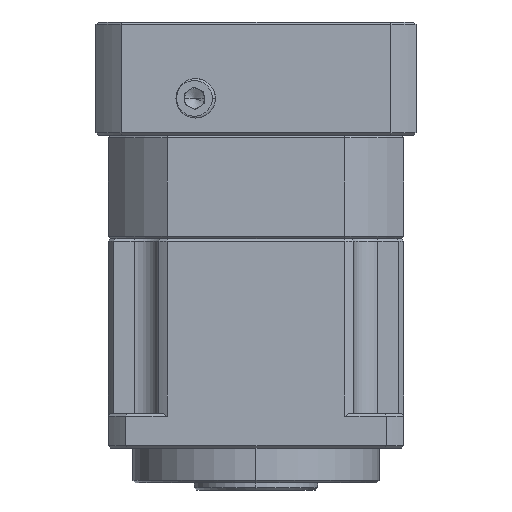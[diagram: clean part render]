
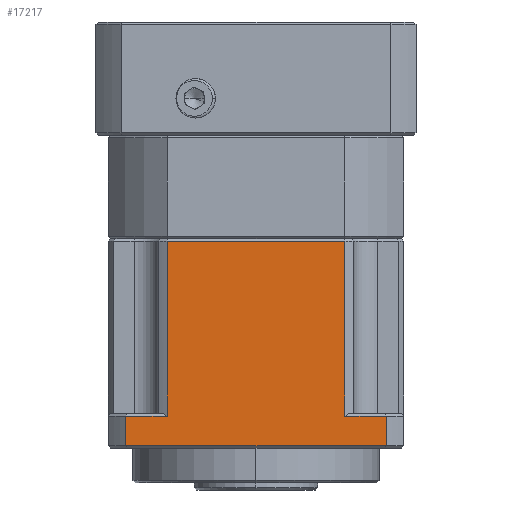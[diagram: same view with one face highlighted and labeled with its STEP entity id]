
A CAD part, left-side view. The second image highlights one B-rep face of the part: STEP entity #17217.
In plain terms, the highlighted planar face has unit normal (-1, 0, 0).
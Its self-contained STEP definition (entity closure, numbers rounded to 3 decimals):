
#509 = CARTESIAN_POINT ( 'NONE',  ( -66.602, 8.555, -20.903 ) ) ;
#796 = VERTEX_POINT ( 'NONE', #56044 ) ;
#2964 = ORIENTED_EDGE ( 'NONE', *, *, #17668, .F. ) ;
#3222 = ORIENTED_EDGE ( 'NONE', *, *, #30236, .F. ) ;
#3279 = EDGE_LOOP ( 'NONE', ( #2964, #29751, #92621, #3222, #4439, #66383, #25393, #46250 ) ) ;
#4439 = ORIENTED_EDGE ( 'NONE', *, *, #15962, .F. ) ;
#4595 = DIRECTION ( 'NONE',  ( 0., 0., -1. ) ) ;
#5795 = CARTESIAN_POINT ( 'NONE',  ( -66.602, 53.04, -20.903 ) ) ;
#8062 = VERTEX_POINT ( 'NONE', #87217 ) ;
#8610 = VERTEX_POINT ( 'NONE', #42424 ) ;
#14519 = LINE ( 'NONE', #5795, #44176 ) ;
#15284 = VECTOR ( 'NONE', #39071, 1000. ) ;
#15287 = PLANE ( 'NONE',  #82938 ) ;
#15962 = EDGE_CURVE ( 'NONE', #73067, #72955, #66374, .T. ) ;
#16445 = VERTEX_POINT ( 'NONE', #40937 ) ;
#17217 = ADVANCED_FACE ( 'NONE', ( #95795 ), #15287, .F. ) ;
#17668 = EDGE_CURVE ( 'NONE', #39673, #796, #85281, .T. ) ;
#22995 = CARTESIAN_POINT ( 'NONE',  ( -66.602, 8.555, -57.403 ) ) ;
#24240 = LINE ( 'NONE', #27227, #84880 ) ;
#24564 = VECTOR ( 'NONE', #30057, 1000. ) ;
#24656 = EDGE_CURVE ( 'NONE', #16445, #8610, #52950, .T. ) ;
#25393 = ORIENTED_EDGE ( 'NONE', *, *, #24656, .F. ) ;
#27227 = CARTESIAN_POINT ( 'NONE',  ( -66.602, 61.47, -20.903 ) ) ;
#27931 = LINE ( 'NONE', #51150, #95929 ) ;
#29751 = ORIENTED_EDGE ( 'NONE', *, *, #94941, .F. ) ;
#30057 = DIRECTION ( 'NONE',  ( 0., -1., 0. ) ) ;
#30236 = EDGE_CURVE ( 'NONE', #72955, #8062, #24240, .T. ) ;
#31774 = CARTESIAN_POINT ( 'NONE',  ( -66.602, 5.012, -51.403 ) ) ;
#32408 = DIRECTION ( 'NONE',  ( 0., -1., 0. ) ) ;
#39071 = DIRECTION ( 'NONE',  ( 0., 0., -1. ) ) ;
#39673 = VERTEX_POINT ( 'NONE', #54235 ) ;
#40937 = CARTESIAN_POINT ( 'NONE',  ( -66.602, 16.985, -51.403 ) ) ;
#41093 = LINE ( 'NONE', #91315, #24564 ) ;
#41143 = DIRECTION ( 'NONE',  ( 0., 1., 0. ) ) ;
#41502 = DIRECTION ( 'NONE',  ( 0., 0., 1. ) ) ;
#42424 = CARTESIAN_POINT ( 'NONE',  ( -66.602, 8.555, -51.403 ) ) ;
#43410 = VERTEX_POINT ( 'NONE', #85879 ) ;
#44176 = VECTOR ( 'NONE', #59968, 1000. ) ;
#46250 = ORIENTED_EDGE ( 'NONE', *, *, #86651, .F. ) ;
#46620 = EDGE_CURVE ( 'NONE', #8610, #73067, #98611, .T. ) ;
#51150 = CARTESIAN_POINT ( 'NONE',  ( -66.602, 16.985, -20.903 ) ) ;
#52950 = LINE ( 'NONE', #31774, #85064 ) ;
#53773 = DIRECTION ( 'NONE',  ( 0., 0., -1. ) ) ;
#54235 = CARTESIAN_POINT ( 'NONE',  ( -66.602, 53.04, -15.903 ) ) ;
#56044 = CARTESIAN_POINT ( 'NONE',  ( -66.602, 16.985, -15.903 ) ) ;
#58324 = CARTESIAN_POINT ( 'NONE',  ( -66.602, 61.47, -57.403 ) ) ;
#59968 = DIRECTION ( 'NONE',  ( 0., 0., 1. ) ) ;
#60734 = DIRECTION ( 'NONE',  ( 1., 0., 0. ) ) ;
#65062 = VECTOR ( 'NONE', #88995, 1000. ) ;
#66374 = LINE ( 'NONE', #78440, #91450 ) ;
#66383 = ORIENTED_EDGE ( 'NONE', *, *, #46620, .F. ) ;
#72955 = VERTEX_POINT ( 'NONE', #58324 ) ;
#73067 = VERTEX_POINT ( 'NONE', #22995 ) ;
#78440 = CARTESIAN_POINT ( 'NONE',  ( -66.602, 5.012, -57.403 ) ) ;
#81223 = CARTESIAN_POINT ( 'NONE',  ( -66.602, 35.012, -15.903 ) ) ;
#82938 = AXIS2_PLACEMENT_3D ( 'NONE', #91069, #60734, #53773 ) ;
#84880 = VECTOR ( 'NONE', #41502, 1000. ) ;
#85064 = VECTOR ( 'NONE', #32408, 1000. ) ;
#85281 = LINE ( 'NONE', #81223, #65062 ) ;
#85879 = CARTESIAN_POINT ( 'NONE',  ( -66.602, 53.04, -51.403 ) ) ;
#86651 = EDGE_CURVE ( 'NONE', #796, #16445, #27931, .T. ) ;
#87217 = CARTESIAN_POINT ( 'NONE',  ( -66.602, 61.47, -51.403 ) ) ;
#88995 = DIRECTION ( 'NONE',  ( 0., -1., 0. ) ) ;
#91069 = CARTESIAN_POINT ( 'NONE',  ( -66.602, 5.012, -20.903 ) ) ;
#91315 = CARTESIAN_POINT ( 'NONE',  ( -66.602, 5.012, -51.403 ) ) ;
#91450 = VECTOR ( 'NONE', #41143, 1000. ) ;
#92621 = ORIENTED_EDGE ( 'NONE', *, *, #98820, .F. ) ;
#94941 = EDGE_CURVE ( 'NONE', #43410, #39673, #14519, .T. ) ;
#95795 = FACE_OUTER_BOUND ( 'NONE', #3279, .T. ) ;
#95929 = VECTOR ( 'NONE', #4595, 1000. ) ;
#98611 = LINE ( 'NONE', #509, #15284 ) ;
#98820 = EDGE_CURVE ( 'NONE', #8062, #43410, #41093, .T. ) ;
